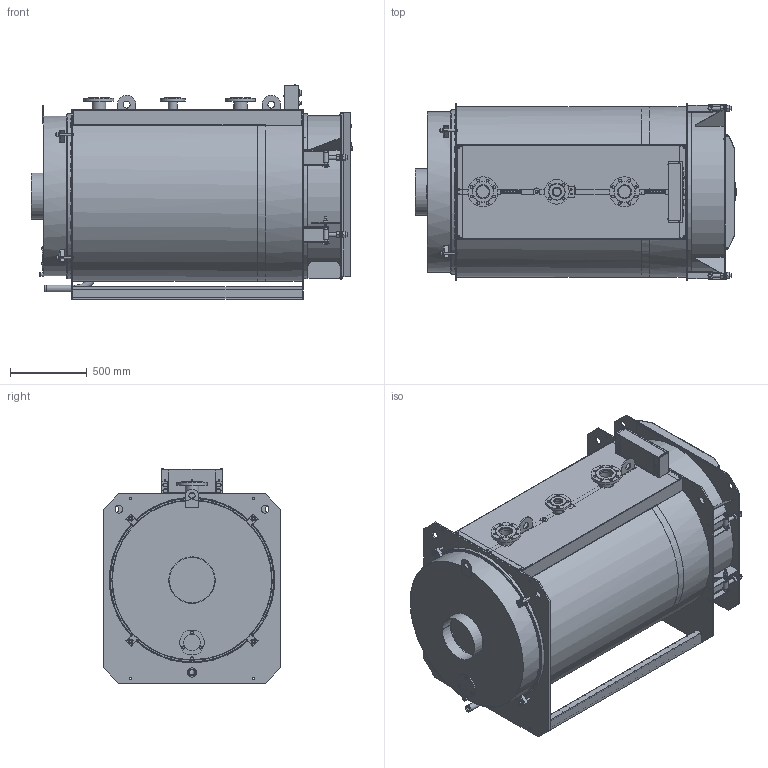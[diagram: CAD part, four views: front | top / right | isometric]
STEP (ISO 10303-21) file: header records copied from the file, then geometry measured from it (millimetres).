
FILE_DESCRIPTION(('STEP AP214'), '1');
FILE_NAME('Òèòàí Ïðîì 450 êÂò', '2026-01-12T14:14:36', (''), (''), 'ASCON STEP Converter 1.6', 'ASCON Math Kernel', '');
FILE_SCHEMA(('AUTOMOTIVE_DESIGN { 1 0 10303 214 3 1 1}'));
Length unit declared in the file: millimetre
Products named in the file (1): КЕВМ.3136.00.00.000-07 СБ
Bounding box: 2085.26 x 1150 x 1393.16 mm (x, y, z)
Volume: 48302084.8 mm3; surface area: 27732845.1 mm2
Topology: 64 solids, 65 shells, 4453 faces, 11239 edges, 7211 vertices
Faces by surface type: plane 2687, cylinder 1390, bspline 166, cone 163, torus 29, sphere 10, extrusion 8
Full cylindrical faces by diameter (mm): 1.9 x1, 2 x18, 2.5 x1, 3 x8, 3.5 x5, 3.6 x4, 4 x8, 4.1 x10, 4.2 x4, 4.5 x8, 4.8 x1, 5 x23, 6 x5, 7 x2, 7.6 x1, 8 x6, 8.5 x2, 9 x2, 9.25 x4, 9.5 x10, 9.728 x1, 10 x5, 10.5 x1, 11 x1, 12 x9, 13 x4, 13.835 x3, 14.376 x4, 14.5 x1, 15 x1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
Entity records: 236464 total; most frequent: CARTESIAN_POINT 95322, ORIENTED_EDGE 21428, DIRECTION 20900, EDGE_CURVE 10714, VERTEX_POINT 7197, AXIS2_PLACEMENT_3D 7185, VECTOR 6530, LINE 6522
